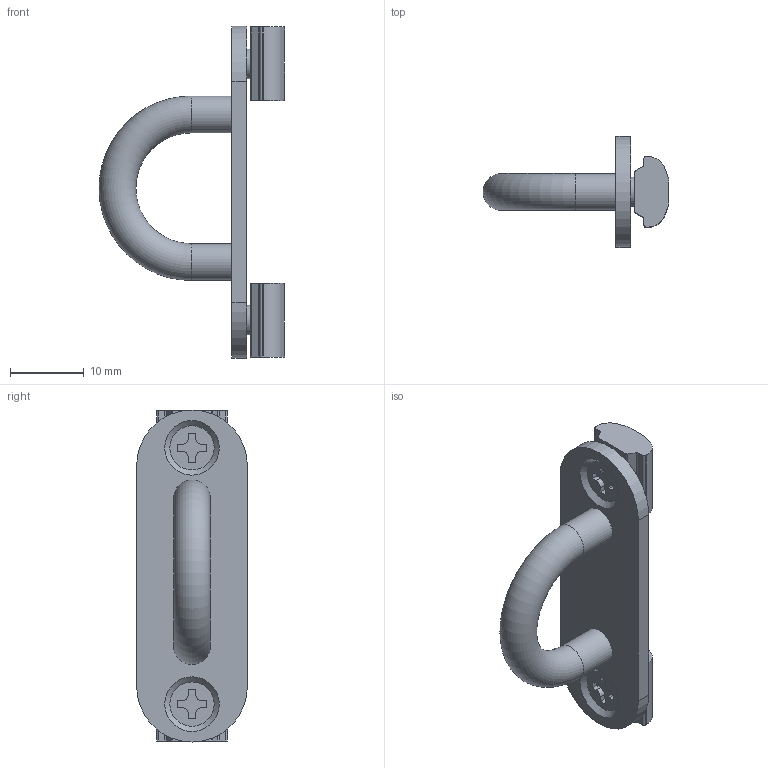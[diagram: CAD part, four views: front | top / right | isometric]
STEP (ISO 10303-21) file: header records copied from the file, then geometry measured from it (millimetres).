
FILE_DESCRIPTION(('STEP AP214'),'1');
FILE_NAME('PD5-25B.stp','2017-03-03T07:39:58',(' '),(' '),'Spatial InterOp 3D',' ',' ');
FILE_SCHEMA(('automotive_design'));
Length unit declared in the file: millimetre
Products named in the file (6): PD5-25B; PD5-H; M4*10小頭皿ﾈｼﾞ; NF25-M4
Assembly tree (5 placements, depth 2):
  PD5-25B
    PD5-H
    M4*10小頭皿ﾈｼﾞ
    NF25-M4
    M4*10小頭皿ﾈｼﾞ
    NF25-M4
Bounding box: 25.2 x 15 x 45 mm (x, y, z)
Volume: 2743.6 mm3; surface area: 3046.3 mm2
Topology: 5 solids, 5 shells, 107 faces, 286 edges, 189 vertices
Faces by surface type: plane 60, cylinder 42, cone 4, torus 1
Full cylindrical faces by diameter (mm): 4 x4, 4.2 x2, 5 x2
Entity records: 4281 total; most frequent: CARTESIAN_POINT 609, DIRECTION 574, ORIENTED_EDGE 540, EDGE_CURVE 270, AXIS2_PLACEMENT_3D 199, VERTEX_POINT 186, LINE 176, VECTOR 176
